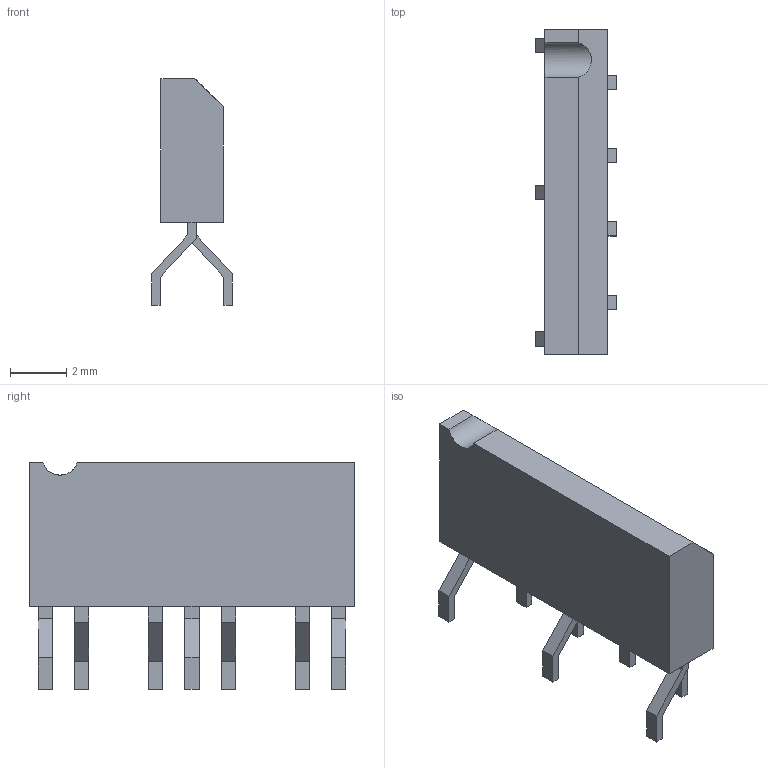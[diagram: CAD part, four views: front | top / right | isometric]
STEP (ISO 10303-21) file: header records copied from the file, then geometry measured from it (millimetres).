
FILE_DESCRIPTION(/* description */ (''),/* implementation_level */ '2;1');
FILE_NAME(/* name */ 'bal6686 v4.step',/* time_stamp */ '2023-11-11T18:19:17+01:00',/* author */ (''),/* organization */ (''),/* preprocessor_version */ 'ST-DEVELOPER v20',/* originating_system */ 'Autodesk Translation Framework v12.14.0.127',/* authorisation */ '');
FILE_SCHEMA (('AUTOMOTIVE_DESIGN { 1 0 10303 214 3 1 1 }'));
Length unit declared in the file: millimetre
Products named in the file (1): bal6686
Bounding box: 2.86 x 11.5 x 8.04 mm (x, y, z)
Volume: 126.3 mm3; surface area: 221.1 mm2
Topology: 1 solids, 1 shells, 72 faces, 189 edges, 126 vertices
Faces by surface type: plane 71, cylinder 1
Entity records: 2278 total; most frequent: CARTESIAN_POINT 388, ORIENTED_EDGE 378, DIRECTION 337, EDGE_CURVE 189, LINE 187, VECTOR 187, VERTEX_POINT 126, EDGE_LOOP 79
